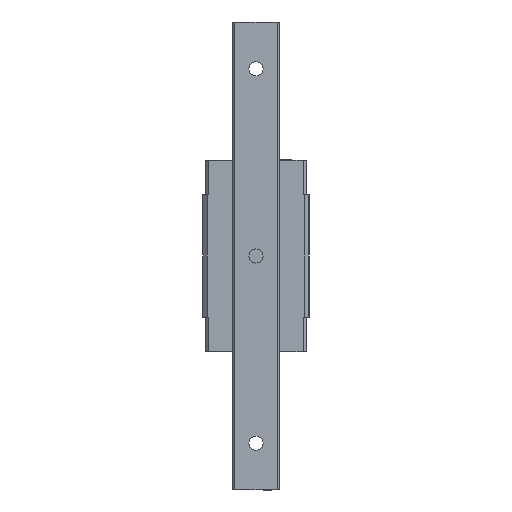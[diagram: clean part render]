
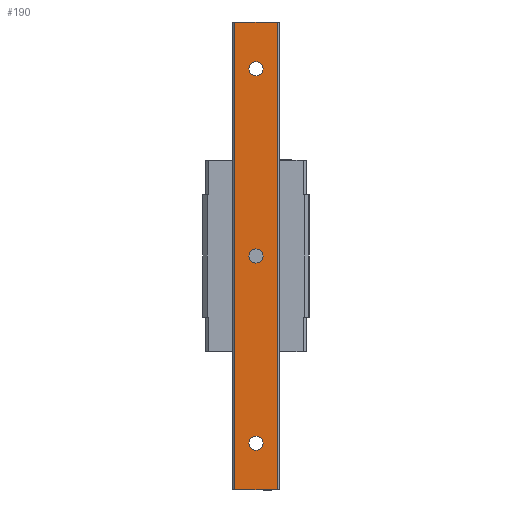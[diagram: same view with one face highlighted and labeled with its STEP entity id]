
A CAD part, front view. The second image highlights one B-rep face of the part: STEP entity #190.
In plain terms, the highlighted planar face has unit normal (0, -1, 0).
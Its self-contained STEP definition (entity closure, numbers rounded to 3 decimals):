
#97=FACE_BOUND('',#697,.T.);
#98=FACE_BOUND('',#698,.T.);
#99=FACE_BOUND('',#699,.T.);
#100=FACE_BOUND('',#700,.T.);
#190=ADVANCED_FACE('',(#97,#98,#99,#100),#372,.T.);
#372=PLANE('',#3728);
#697=EDGE_LOOP('',(#1051,#1052,#1053,#1054));
#698=EDGE_LOOP('',(#1055));
#699=EDGE_LOOP('',(#1056));
#700=EDGE_LOOP('',(#1057));
#916=CIRCLE('',#3725,2.25);
#917=CIRCLE('',#3726,2.25);
#918=CIRCLE('',#3727,2.25);
#1051=ORIENTED_EDGE('',*,*,#2379,.F.);
#1052=ORIENTED_EDGE('',*,*,#2380,.T.);
#1053=ORIENTED_EDGE('',*,*,#2381,.T.);
#1054=ORIENTED_EDGE('',*,*,#2332,.F.);
#1055=ORIENTED_EDGE('',*,*,#2382,.F.);
#1056=ORIENTED_EDGE('',*,*,#2383,.F.);
#1057=ORIENTED_EDGE('',*,*,#2384,.F.);
#1990=VERTEX_POINT('',#4928);
#1991=VERTEX_POINT('',#4930);
#2025=VERTEX_POINT('',#5022);
#2026=VERTEX_POINT('',#5026);
#2027=VERTEX_POINT('',#5029);
#2028=VERTEX_POINT('',#5031);
#2029=VERTEX_POINT('',#5033);
#2332=EDGE_CURVE('',#1990,#1991,#2832,.T.);
#2379=EDGE_CURVE('',#2025,#1990,#2865,.T.);
#2380=EDGE_CURVE('',#2025,#2026,#2866,.T.);
#2381=EDGE_CURVE('',#2026,#1991,#2867,.T.);
#2382=EDGE_CURVE('',#2027,#2027,#916,.T.);
#2383=EDGE_CURVE('',#2028,#2028,#917,.T.);
#2384=EDGE_CURVE('',#2029,#2029,#918,.T.);
#2832=LINE('',#4929,#3265);
#2865=LINE('',#5023,#3298);
#2866=LINE('',#5025,#3299);
#2867=LINE('',#5027,#3300);
#3265=VECTOR('',#3970,1.);
#3298=VECTOR('',#4055,1.);
#3299=VECTOR('',#4058,1.);
#3300=VECTOR('',#4059,1.);
#3725=AXIS2_PLACEMENT_3D('',#5028,#4060,#4061);
#3726=AXIS2_PLACEMENT_3D('',#5030,#4062,#4063);
#3727=AXIS2_PLACEMENT_3D('',#5032,#4064,#4065);
#3728=AXIS2_PLACEMENT_3D('',#5034,#4066,#4067);
#3970=DIRECTION('',(-1.,0.,0.));
#4055=DIRECTION('',(0.,0.,-1.));
#4058=DIRECTION('',(-1.,0.,0.));
#4059=DIRECTION('',(0.,0.,-1.));
#4060=DIRECTION('',(0.,-1.,0.));
#4061=DIRECTION('',(-1.,0.,0.));
#4062=DIRECTION('',(0.,-1.,0.));
#4063=DIRECTION('',(-1.,0.,0.));
#4064=DIRECTION('',(0.,-1.,0.));
#4065=DIRECTION('',(1.,0.,0.));
#4066=DIRECTION('',(0.,-1.,0.));
#4067=DIRECTION('',(-1.,0.,0.));
#4928=CARTESIAN_POINT('',(6.8,-15.,-75.));
#4929=CARTESIAN_POINT('',(6.8,-15.,-75.));
#4930=CARTESIAN_POINT('',(-6.8,-15.,-75.));
#5022=CARTESIAN_POINT('',(6.8,-15.,75.));
#5023=CARTESIAN_POINT('',(6.8,-15.,75.));
#5025=CARTESIAN_POINT('',(6.8,-15.,75.));
#5026=CARTESIAN_POINT('',(-6.8,-15.,75.));
#5027=CARTESIAN_POINT('',(-6.8,-15.,75.));
#5028=CARTESIAN_POINT('',(0.,-15.,0.));
#5029=CARTESIAN_POINT('',(-2.25,-15.,0.));
#5030=CARTESIAN_POINT('',(0.,-15.,-60.));
#5031=CARTESIAN_POINT('',(-2.25,-15.,-60.));
#5032=CARTESIAN_POINT('',(0.,-15.,60.));
#5033=CARTESIAN_POINT('',(2.25,-15.,60.));
#5034=CARTESIAN_POINT('',(-7.48,-15.,-82.5));
